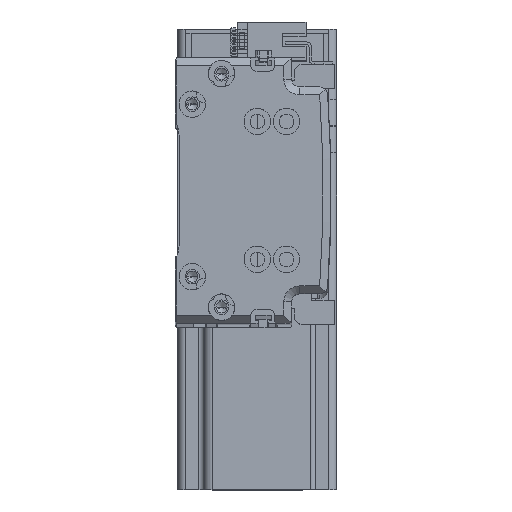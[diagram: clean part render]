
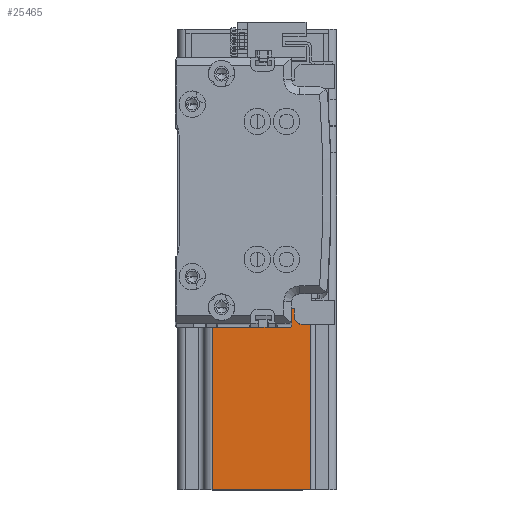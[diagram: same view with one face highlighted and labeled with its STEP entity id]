
A CAD part, top view. The second image highlights one B-rep face of the part: STEP entity #25465.
In plain terms, the highlighted planar face has unit normal (0, 0, 1) as drawn and (-1, 0, 0) by its records, which use the part's own axes.
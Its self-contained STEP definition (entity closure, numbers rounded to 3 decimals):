
#1402 = EDGE_CURVE ( 'NONE', #3032, #52061, #49837, .T. ) ;
#3032 = VERTEX_POINT ( 'NONE', #33430 ) ;
#3224 = CARTESIAN_POINT ( 'NONE',  ( -30., -17., 137. ) ) ;
#3688 = ORIENTED_EDGE ( 'NONE', *, *, #22310, .T. ) ;
#4526 = VECTOR ( 'NONE', #30762, 1000. ) ;
#5605 = VERTEX_POINT ( 'NONE', #25129 ) ;
#5769 = ORIENTED_EDGE ( 'NONE', *, *, #31399, .F. ) ;
#6014 = CARTESIAN_POINT ( 'NONE',  ( -30., -30., 137. ) ) ;
#6868 = CARTESIAN_POINT ( 'NONE',  ( -30., 27., 137. ) ) ;
#6873 = ORIENTED_EDGE ( 'NONE', *, *, #8057, .T. ) ;
#7747 = EDGE_CURVE ( 'NONE', #40041, #38428, #49222, .T. ) ;
#8057 = EDGE_CURVE ( 'NONE', #31037, #40041, #49177, .T. ) ;
#10050 = DIRECTION ( 'NONE',  ( 0., 0., -1. ) ) ;
#10417 = DIRECTION ( 'NONE',  ( 0., -1., 0. ) ) ;
#10566 = VECTOR ( 'NONE', #34985, 1000. ) ;
#10762 = FACE_OUTER_BOUND ( 'NONE', #38766, .T. ) ;
#11440 = CARTESIAN_POINT ( 'NONE',  ( -30., 30., 10. ) ) ;
#12339 = ORIENTED_EDGE ( 'NONE', *, *, #18975, .F. ) ;
#12993 = DIRECTION ( 'NONE',  ( 0., 0., 1. ) ) ;
#13170 = CARTESIAN_POINT ( 'NONE',  ( -30., -27., 137. ) ) ;
#16791 = CARTESIAN_POINT ( 'NONE',  ( -30., 27., 0. ) ) ;
#18383 = LINE ( 'NONE', #43248, #49116 ) ;
#18975 = EDGE_CURVE ( 'NONE', #49555, #52061, #45952, .T. ) ;
#20061 = ORIENTED_EDGE ( 'NONE', *, *, #7747, .T. ) ;
#20180 = CARTESIAN_POINT ( 'NONE',  ( -30., 20., 10. ) ) ;
#22310 = EDGE_CURVE ( 'NONE', #22437, #5605, #42625, .T. ) ;
#22437 = VERTEX_POINT ( 'NONE', #20180 ) ;
#23280 = DIRECTION ( 'NONE',  ( 0., 0., 1. ) ) ;
#24224 = ORIENTED_EDGE ( 'NONE', *, *, #51183, .F. ) ;
#25129 = CARTESIAN_POINT ( 'NONE',  ( -30., 27., 10. ) ) ;
#25465 = ADVANCED_FACE ( 'NONE', ( #10762 ), #41946, .F. ) ;
#26824 = CARTESIAN_POINT ( 'NONE',  ( -30., -30., 10. ) ) ;
#27073 = VECTOR ( 'NONE', #38855, 1000. ) ;
#27958 = VECTOR ( 'NONE', #12993, 1000. ) ;
#29493 = ORIENTED_EDGE ( 'NONE', *, *, #1402, .T. ) ;
#29503 = ORIENTED_EDGE ( 'NONE', *, *, #51800, .T. ) ;
#30602 = CARTESIAN_POINT ( 'NONE',  ( -30., -27., 10. ) ) ;
#30762 = DIRECTION ( 'NONE',  ( 0., -1., 0. ) ) ;
#31037 = VERTEX_POINT ( 'NONE', #16791 ) ;
#31399 = EDGE_CURVE ( 'NONE', #22437, #49555, #18383, .T. ) ;
#31929 = LINE ( 'NONE', #6868, #10566 ) ;
#33430 = CARTESIAN_POINT ( 'NONE',  ( -30., -17., 10. ) ) ;
#34132 = DIRECTION ( 'NONE',  ( 1., 0., 0. ) ) ;
#34985 = DIRECTION ( 'NONE',  ( 0., 0., -1. ) ) ;
#35502 = DIRECTION ( 'NONE',  ( 0., 1., 0. ) ) ;
#35662 = CARTESIAN_POINT ( 'NONE',  ( -30., -30., 0. ) ) ;
#36306 = CARTESIAN_POINT ( 'NONE',  ( -30., -27., 0. ) ) ;
#37111 = AXIS2_PLACEMENT_3D ( 'NONE', #6014, #34132, #10050 ) ;
#37732 = LINE ( 'NONE', #26824, #27073 ) ;
#38428 = VERTEX_POINT ( 'NONE', #30602 ) ;
#38537 = VECTOR ( 'NONE', #10417, 1000. ) ;
#38766 = EDGE_LOOP ( 'NONE', ( #24224, #29493, #12339, #5769, #3688, #29503, #6873, #20061 ) ) ;
#38775 = CARTESIAN_POINT ( 'NONE',  ( -30., -30., 137. ) ) ;
#38855 = DIRECTION ( 'NONE',  ( 0., -1., 0. ) ) ;
#40041 = VERTEX_POINT ( 'NONE', #36306 ) ;
#41946 = PLANE ( 'NONE',  #37111 ) ;
#42625 = LINE ( 'NONE', #11440, #52057 ) ;
#43248 = CARTESIAN_POINT ( 'NONE',  ( -30., 20., 10. ) ) ;
#43514 = DIRECTION ( 'NONE',  ( 0., 0., 1. ) ) ;
#44386 = CARTESIAN_POINT ( 'NONE',  ( -30., 20., 137. ) ) ;
#45592 = CARTESIAN_POINT ( 'NONE',  ( -30., -17., 137. ) ) ;
#45952 = LINE ( 'NONE', #38775, #4526 ) ;
#48569 = VECTOR ( 'NONE', #43514, 1000. ) ;
#49116 = VECTOR ( 'NONE', #23280, 1000. ) ;
#49177 = LINE ( 'NONE', #35662, #38537 ) ;
#49222 = LINE ( 'NONE', #13170, #27958 ) ;
#49555 = VERTEX_POINT ( 'NONE', #44386 ) ;
#49837 = LINE ( 'NONE', #3224, #48569 ) ;
#51183 = EDGE_CURVE ( 'NONE', #3032, #38428, #37732, .T. ) ;
#51800 = EDGE_CURVE ( 'NONE', #5605, #31037, #31929, .T. ) ;
#52057 = VECTOR ( 'NONE', #35502, 1000. ) ;
#52061 = VERTEX_POINT ( 'NONE', #45592 ) ;
